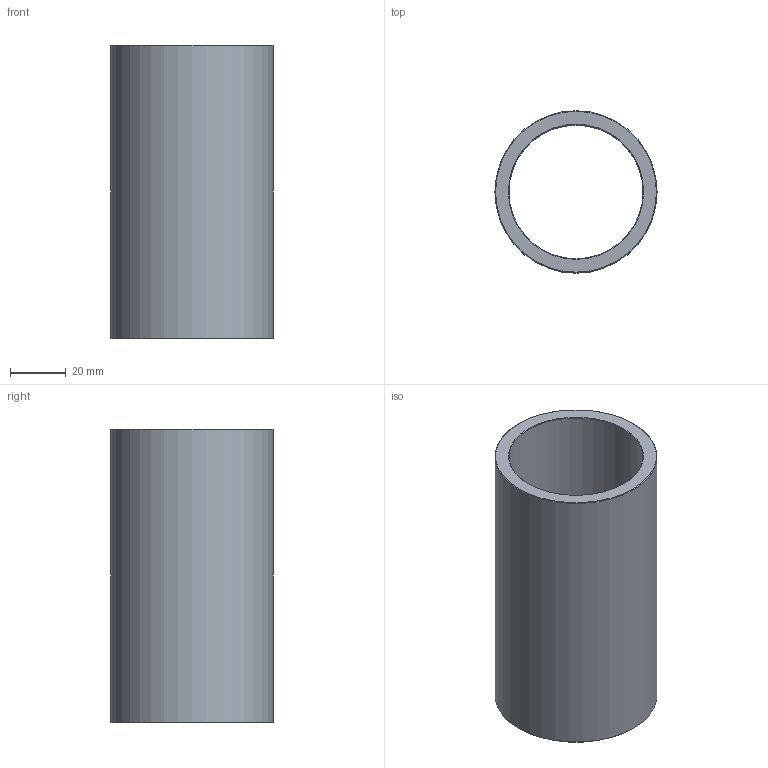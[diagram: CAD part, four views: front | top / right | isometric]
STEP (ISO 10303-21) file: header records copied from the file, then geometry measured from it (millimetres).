
FILE_DESCRIPTION(('STEP AP203'),'1');
FILE_NAME('C:/Users/Rodrigo/Desktop/GA5.048.105-1.step','2016-11-07T20:08:48',(' '),(' '),'Spatial InterOp 3D',' ',' ');
FILE_SCHEMA(('CONFIG_CONTROL_DESIGN'));
Length unit declared in the file: millimetre
Products named in the file (1): 1
Bounding box: 58 x 58 x 105 mm (x, y, z)
Volume: 87401.5 mm3; surface area: 36552.9 mm2
Topology: 1 solids, 1 shells, 8 faces, 14 edges, 8 vertices
Faces by surface type: cone 4, cylinder 2, plane 2
Full cylindrical faces by diameter (mm): 48 x1, 58 x1
Entity records: 212 total; most frequent: DIRECTION 34, CARTESIAN_POINT 25, AXIS2_PLACEMENT_3D 17, EDGE_LOOP 16, ORIENTED_EDGE 16, FACE_OUTER_BOUND 10, ADVANCED_FACE 8, EDGE_CURVE 8
